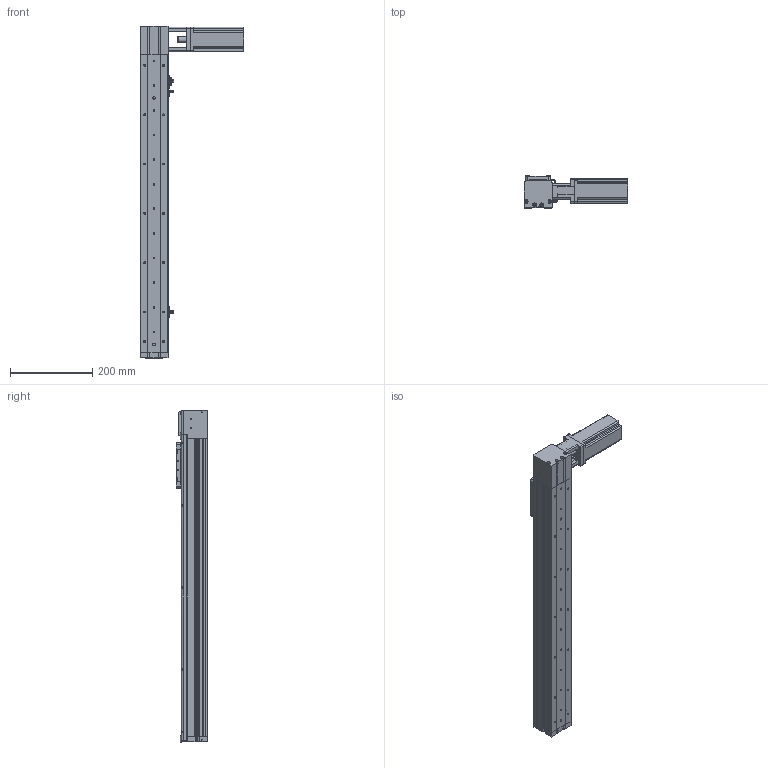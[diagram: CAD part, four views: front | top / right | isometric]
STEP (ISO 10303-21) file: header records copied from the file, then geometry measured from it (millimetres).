
FILE_DESCRIPTION (( 'STEP AP214' ), '1' );
FILE_NAME ('KSD68BS-S550-MRT-CR.STEP', '2019-11-07T06:38:14', ( '微软用户' ), ( '微软中国' ), 'SwSTEP 2.0', 'SolidWorks 2014', '' );
FILE_SCHEMA (( 'AUTOMOTIVE_DESIGN' ));
Length unit declared in the file: millimetre
Products named in the file (13): 100遵鎮湛假蚾啣1; KSD68BS 550行程盖板全封闭; 68遵裔啣揤啣1; 68宽单导轨全封闭丝杆传动安装板1防护罩; KSD68BS 550行程侧板全封闭; 68宽单导轨全封闭同步带端板; 68单导轨全封闭同步带电机座左; 68单导轨全封闭同步带安装板; 感应片68宽全封闭; U倰嫖萇EEㄜSX672; 台达ECMA－C20604AS伺服电机（400W); KSD68BS 550行程底板全封闭; KSD68BS-S550-MRT-CR
Assembly tree (16 placements, depth 2):
  KSD68BS-S550-MRT-CR
    KSD68BS 550行程底板全封闭
    台达ECMA－C20604AS伺服电机（400W)
    U倰嫖萇EEㄜSX672  x3
    感应片68宽全封闭
    68单导轨全封闭同步带安装板
    68单导轨全封闭同步带电机座左
    68宽单导轨全封闭同步带端板
    KSD68BS 550行程侧板全封闭  x2
    68宽单导轨全封闭丝杆传动安装板1防护罩
    68遵裔啣揤啣1  x2
    KSD68BS 550行程盖板全封闭
    100遵鎮湛假蚾啣1
Bounding box: 252.7 x 77 x 808.1 mm (x, y, z)
Volume: 1878462.4 mm3; surface area: 647985.1 mm2
Topology: 17 solids, 17 shells, 1381 faces, 3906 edges, 2502 vertices
Faces by surface type: cylinder 635, plane 598, cone 148
Entity records: 43206 total; most frequent: CARTESIAN_POINT 7341, DIRECTION 6435, ORIENTED_EDGE 6164, EDGE_CURVE 3082, AXIS2_PLACEMENT_3D 2308, VERTEX_POINT 2020, VECTOR 1819, LINE 1819
